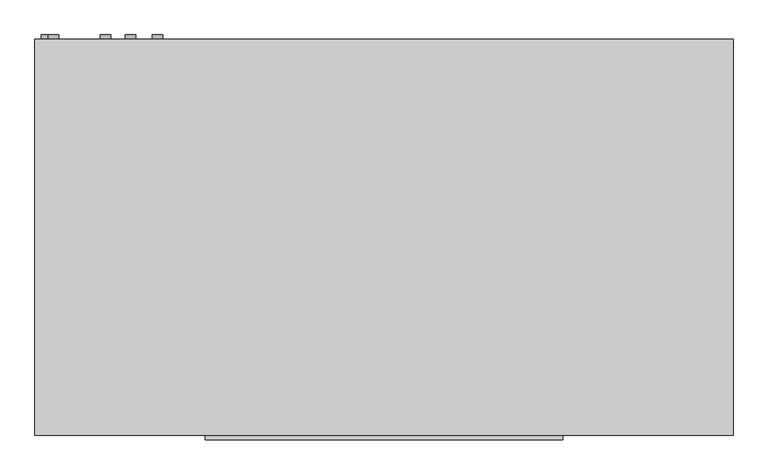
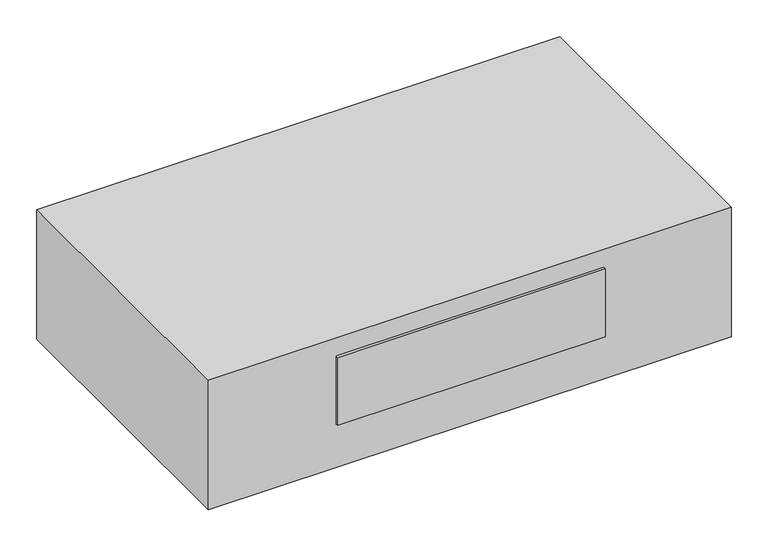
"""IFC4 building model written with IfcOpenShell, lengths in millimetres: proxy geometry, Exposed_Horizontal_Fan_Coil_Unit_-_42CGB_-_CARRIER_-_4-Pipe_FS-BR_LH_2022 : Size 03 - 277v/60Hz/1Ph - 4/1 Coil."""

from ifc_helpers import new_model, si_unit, point, frame, frame_2d, origin, place, context, project, spatial, polyline, circle_curve, trimmed, segment, composite_curve, outline, extrude, source, transform, mapped, element, save


def mechanical_equipment_f442c28c(model_context):
    return source(origin(), model_context, "Body", "SweptSolid", [
        extrude(outline(composite_curve([segment(trimmed(circle_curve(frame_2d((-261.434158, -362.1546393)), 9.525), [point((-261.434158, -352.6296393))], [point((-261.434158, -371.6796393))], False, "CARTESIAN"), True, "CONTINUOUS"), segment(trimmed(circle_curve(frame_2d((-261.434158, -362.1546393)), 9.525), [point((-261.434158, -371.6796393))], [point((-261.434158, -352.6296393))], False, "CARTESIAN"), True, "CONTINUOUS")], self_intersect=False)), frame((0.0, 65.0875, 0.0), z_axis=(0.0, 1.0, 0.0), x_axis=(0.0, 0.0, 1.0)), (0.0, 0.0, 1.0), 6.35),
        extrude(outline(composite_curve([segment(trimmed(circle_curve(frame_2d((-85.725, -352.425)), 7.9375), [point((-85.725, -344.4875))], [point((-85.725, -360.3625))], False, "CARTESIAN"), True, "CONTINUOUS"), segment(trimmed(circle_curve(frame_2d((-85.725, -352.425)), 7.9375), [point((-85.725, -360.3625))], [point((-85.725, -344.4875))], False, "CARTESIAN"), True, "CONTINUOUS")], self_intersect=False)), frame((0.0, 65.0875, 0.0), z_axis=(0.0, 1.0, 0.0), x_axis=(0.0, 0.0, 1.0)), (0.0, 0.0, 1.0), 6.35),
        extrude(outline(composite_curve([segment(trimmed(circle_curve(frame_2d((-44.45, -273.05)), 7.9375), [point((-44.45, -265.1125))], [point((-44.45, -280.9875))], False, "CARTESIAN"), True, "CONTINUOUS"), segment(trimmed(circle_curve(frame_2d((-44.45, -273.05)), 7.9375), [point((-44.45, -280.9875))], [point((-44.45, -265.1125))], False, "CARTESIAN"), True, "CONTINUOUS")], self_intersect=False)), frame((0.0, 65.0875, 0.0), z_axis=(0.0, 1.0, 0.0), x_axis=(0.0, 0.0, 1.0)), (0.0, 0.0, 1.0), 6.35),
        extrude(outline(composite_curve([segment(trimmed(circle_curve(frame_2d((-95.25, -234.95)), 7.9375), [point((-95.25, -227.0125))], [point((-95.25, -242.8875))], False, "CARTESIAN"), True, "CONTINUOUS"), segment(trimmed(circle_curve(frame_2d((-95.25, -234.95)), 7.9375), [point((-95.25, -242.8875))], [point((-95.25, -227.0125))], False, "CARTESIAN"), True, "CONTINUOUS")], self_intersect=False)), frame((0.0, 65.0875, 0.0), z_axis=(0.0, 1.0, 0.0), x_axis=(0.0, 0.0, 1.0)), (0.0, 0.0, 1.0), 6.35),
        extrude(outline(composite_curve([segment(trimmed(circle_curve(frame_2d((-60.325, -193.675)), 7.9375), [point((-60.325, -185.7375))], [point((-60.325, -201.6125))], False, "CARTESIAN"), True, "CONTINUOUS"), segment(trimmed(circle_curve(frame_2d((-60.325, -193.675)), 7.9375), [point((-60.325, -201.6125))], [point((-60.325, -185.7375))], False, "CARTESIAN"), True, "CONTINUOUS")], self_intersect=False)), frame((0.0, 65.0875, 0.0), z_axis=(0.0, 1.0, 0.0), x_axis=(0.0, 0.0, 1.0)), (0.0, 0.0, 1.0), 6.35),
        extrude(outline(polyline([(-381.0, 65.0875), (685.8, 65.0875), (685.8, -541.3375), (-381.0, -541.3375), (-381.0, 65.0875)])), frame((0.0, 0.0, -279.4), z_axis=(0.0, 0.0, 1.0), x_axis=(1.0, 0.0, 0.0)), (0.0, 0.0, 1.0), 279.4),
        extrude(outline(polyline([(425.45, -547.6875), (-120.65, -547.6875), (-120.65, -541.3375), (425.45, -541.3375), (425.45, -547.6875)])), frame((0.0, 0.0, -184.15), z_axis=(0.0, 0.0, 1.0), x_axis=(1.0, 0.0, 0.0)), (0.0, 0.0, 1.0), 146.05),
        extrude(outline(polyline([(508.0, -11.1125), (508.0, -265.1125), (-203.2, -265.1125), (-203.2, -11.1125), (508.0, -11.1125)])), frame((0.0, 0.0, -285.75), z_axis=(0.0, 0.0, 1.0), x_axis=(1.0, 0.0, 0.0)), (0.0, 0.0, 1.0), 6.35),
    ])


if __name__ == "__main__":
    model = new_model("IFC4")
    model_context = context("Model", 3, world=origin())
    ifc_project = project(units=[si_unit("LENGTHUNIT", "METRE", prefix="MILLI")], contexts=[model_context])
    site = spatial("IfcSite", under=ifc_project)
    building = spatial("IfcBuilding", under=site)
    placement = place(None, origin())
    mechanical_equipment_shape = mechanical_equipment_f442c28c(model_context)
    element("IfcBuildingElementProxy", 1, Name="Exposed_Horizontal_Fan_Coil_Unit_-_42CGB_-_CARRIER_-_4-Pipe_FS-BR_LH_2022 : Size 03 - 277v/60Hz/1Ph - 4/1 Coil", ObjectType="Exposed_Horizontal_Fan_Coil_Unit_-_42CGB_-_CARRIER_-_4-Pipe_FS-BR_LH_2022 : Size 03 - 277v/60Hz/1Ph - 4/1 Coil", at=placement, inside=building, context=model_context, shape_type="MappedRepresentation", body=[
        mapped(mechanical_equipment_shape, transform((0.0, 0.0, 0.0), x_axis=(1.0, 0.0, 0.0), y_axis=(0.0, 1.0, 0.0), z_axis=(0.0, 0.0, 1.0))),
    ])
    save(model, "model.ifc")
